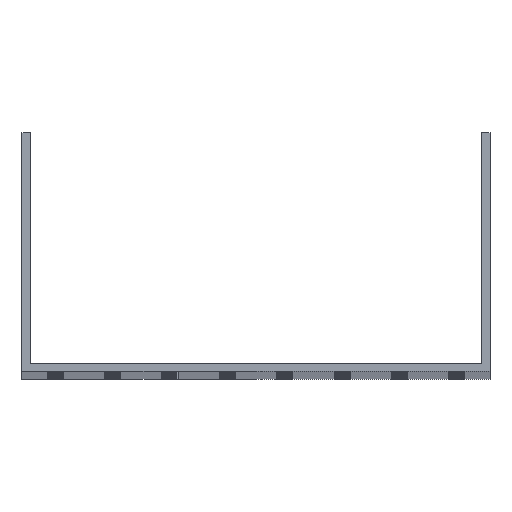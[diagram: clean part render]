
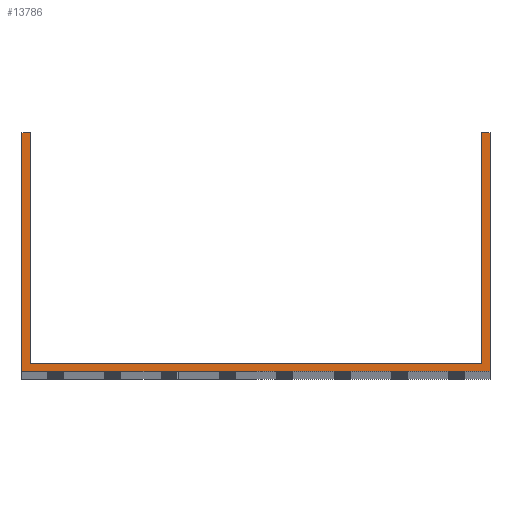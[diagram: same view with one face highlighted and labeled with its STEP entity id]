
A CAD part, top view. The second image highlights one B-rep face of the part: STEP entity #13786.
In plain terms, the highlighted planar face has unit normal (0, 0, 1).
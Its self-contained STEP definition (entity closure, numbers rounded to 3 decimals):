
#1584 = EDGE_CURVE ( 'NONE', #22921, #29285, #66415, .T. ) ;
#3976 = VERTEX_POINT ( 'NONE', #8389 ) ;
#4219 = VERTEX_POINT ( 'NONE', #42914 ) ;
#4265 = EDGE_CURVE ( 'NONE', #81926, #58351, #84161, .T. ) ;
#4597 = DIRECTION ( 'NONE',  ( 1., 0., 0. ) ) ;
#7701 = DIRECTION ( 'NONE',  ( 0., 1., 0. ) ) ;
#7777 = DIRECTION ( 'NONE',  ( 0., -1., 0. ) ) ;
#7989 = DIRECTION ( 'NONE',  ( -1., 0., 0. ) ) ;
#8389 = CARTESIAN_POINT ( 'NONE',  ( -98.5, 104., 1000. ) ) ;
#9092 = ORIENTED_EDGE ( 'NONE', *, *, #39037, .T. ) ;
#11558 = DIRECTION ( 'NONE',  ( 0., 0., 1. ) ) ;
#13345 = VECTOR ( 'NONE', #16266, 1000. ) ;
#13786 = ADVANCED_FACE ( 'NONE', ( #81973 ), #75020, .T. ) ;
#16266 = DIRECTION ( 'NONE',  ( -1., 0., 0. ) ) ;
#18429 = DIRECTION ( 'NONE',  ( 0., 1., 0. ) ) ;
#18854 = EDGE_LOOP ( 'NONE', ( #60323, #60608, #81751, #68250, #47857, #9092, #23291, #84667 ) ) ;
#20699 = CARTESIAN_POINT ( 'NONE',  ( 102., 104., 1000. ) ) ;
#20749 = EDGE_CURVE ( 'NONE', #4219, #81926, #59357, .T. ) ;
#21069 = VECTOR ( 'NONE', #18429, 1000. ) ;
#22921 = VERTEX_POINT ( 'NONE', #26141 ) ;
#23291 = ORIENTED_EDGE ( 'NONE', *, *, #82404, .F. ) ;
#25208 = VECTOR ( 'NONE', #7989, 1000. ) ;
#26141 = CARTESIAN_POINT ( 'NONE',  ( -98.5, 3.5, 1000. ) ) ;
#26916 = VECTOR ( 'NONE', #88531, 1000. ) ;
#29285 = VERTEX_POINT ( 'NONE', #73918 ) ;
#32543 = CARTESIAN_POINT ( 'NONE',  ( 102., 0., 1000. ) ) ;
#36995 = EDGE_CURVE ( 'NONE', #3976, #22921, #48316, .T. ) ;
#38526 = CARTESIAN_POINT ( 'NONE',  ( -102., 0., 1000. ) ) ;
#39037 = EDGE_CURVE ( 'NONE', #58351, #58560, #49236, .T. ) ;
#42914 = CARTESIAN_POINT ( 'NONE',  ( -102., 0., 1000. ) ) ;
#45142 = DIRECTION ( 'NONE',  ( 1., 0., 0. ) ) ;
#47857 = ORIENTED_EDGE ( 'NONE', *, *, #4265, .T. ) ;
#48316 = LINE ( 'NONE', #68228, #90078 ) ;
#49236 = LINE ( 'NONE', #64044, #25208 ) ;
#52760 = EDGE_CURVE ( 'NONE', #53388, #4219, #58251, .T. ) ;
#53388 = VERTEX_POINT ( 'NONE', #68580 ) ;
#54529 = CARTESIAN_POINT ( 'NONE',  ( 98.5, 104., 1000. ) ) ;
#55832 = AXIS2_PLACEMENT_3D ( 'NONE', #83803, #11558, #4597 ) ;
#56175 = VECTOR ( 'NONE', #7777, 1000. ) ;
#58251 = LINE ( 'NONE', #78194, #56175 ) ;
#58351 = VERTEX_POINT ( 'NONE', #67221 ) ;
#58560 = VERTEX_POINT ( 'NONE', #78272 ) ;
#59357 = LINE ( 'NONE', #38526, #26916 ) ;
#59782 = LINE ( 'NONE', #81098, #13345 ) ;
#60323 = ORIENTED_EDGE ( 'NONE', *, *, #36995, .F. ) ;
#60608 = ORIENTED_EDGE ( 'NONE', *, *, #79555, .T. ) ;
#64044 = CARTESIAN_POINT ( 'NONE',  ( -102., 104., 1000. ) ) ;
#66415 = LINE ( 'NONE', #73386, #67543 ) ;
#67221 = CARTESIAN_POINT ( 'NONE',  ( 102., 104., 1000. ) ) ;
#67543 = VECTOR ( 'NONE', #45142, 1000. ) ;
#68228 = CARTESIAN_POINT ( 'NONE',  ( -98.5, 104., 1000. ) ) ;
#68250 = ORIENTED_EDGE ( 'NONE', *, *, #20749, .T. ) ;
#68580 = CARTESIAN_POINT ( 'NONE',  ( -102., 104., 1000. ) ) ;
#70848 = VECTOR ( 'NONE', #7701, 1000. ) ;
#73386 = CARTESIAN_POINT ( 'NONE',  ( -102., 3.5, 1000. ) ) ;
#73918 = CARTESIAN_POINT ( 'NONE',  ( 98.5, 3.5, 1000. ) ) ;
#75020 = PLANE ( 'NONE',  #55832 ) ;
#76572 = DIRECTION ( 'NONE',  ( 0., -1., 0. ) ) ;
#78194 = CARTESIAN_POINT ( 'NONE',  ( -102., 104., 1000. ) ) ;
#78272 = CARTESIAN_POINT ( 'NONE',  ( 98.5, 104., 1000. ) ) ;
#79555 = EDGE_CURVE ( 'NONE', #3976, #53388, #59782, .T. ) ;
#81098 = CARTESIAN_POINT ( 'NONE',  ( -102., 104., 1000. ) ) ;
#81751 = ORIENTED_EDGE ( 'NONE', *, *, #52760, .T. ) ;
#81879 = LINE ( 'NONE', #54529, #21069 ) ;
#81926 = VERTEX_POINT ( 'NONE', #32543 ) ;
#81973 = FACE_OUTER_BOUND ( 'NONE', #18854, .T. ) ;
#82404 = EDGE_CURVE ( 'NONE', #29285, #58560, #81879, .T. ) ;
#83803 = CARTESIAN_POINT ( 'NONE',  ( 0., 0., 1000. ) ) ;
#84161 = LINE ( 'NONE', #20699, #70848 ) ;
#84667 = ORIENTED_EDGE ( 'NONE', *, *, #1584, .F. ) ;
#88531 = DIRECTION ( 'NONE',  ( 1., 0., 0. ) ) ;
#90078 = VECTOR ( 'NONE', #76572, 1000. ) ;
